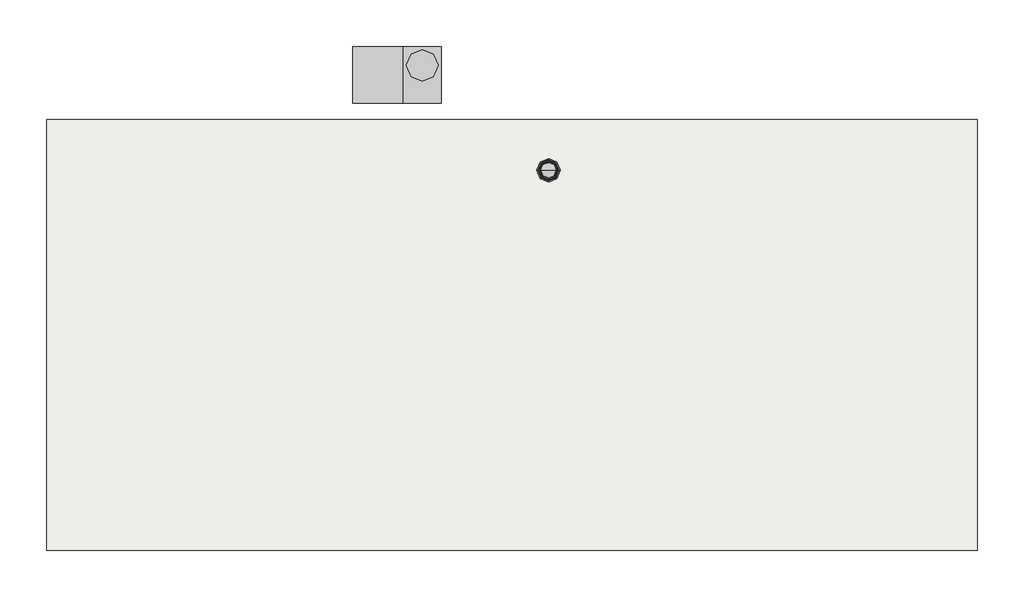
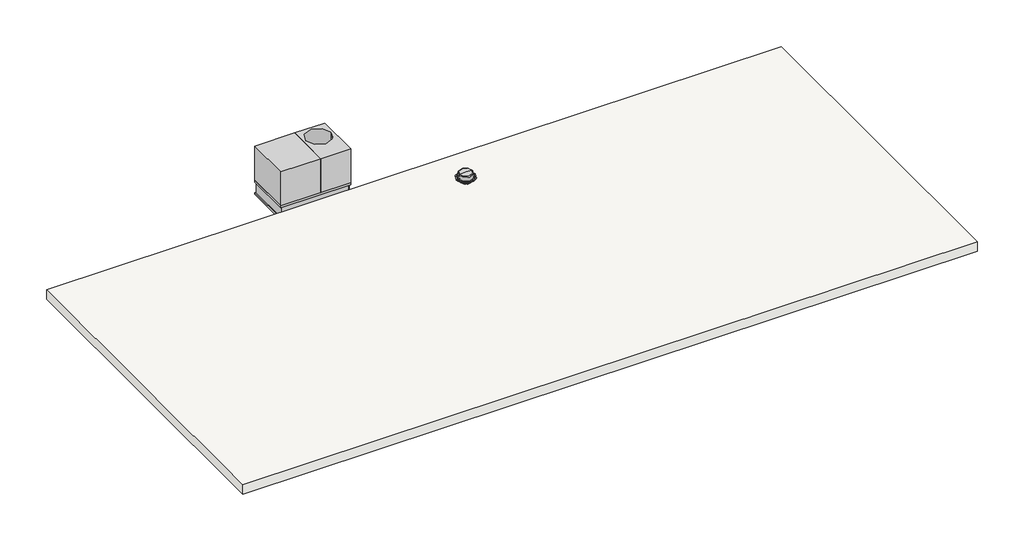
# One storey, incomplete: 2 proxies, 1 roof.
"""IFC4 building model written with IfcOpenShell, lengths in millimetres."""

from ifc_helpers import new_model, si_unit, frame, origin, place, context, project, spatial, polyline, outline, extrude, transform, mapped, element, save
from components import roof_drain_roof_drain_b52993f2, roof_drain_roof_drain_c83bc157, roof_top_unit_default_1_87c86c3b

model = new_model("IFC4")

# Units and contexts
model_context = context("Model", 3, world=origin())
ifc_project = project(units=[si_unit("LENGTHUNIT", "METRE", prefix="MILLI")], contexts=[model_context])

# Site, building, storey
site = spatial("IfcSite", under=ifc_project)
building = spatial("IfcBuilding", under=site)
storey = spatial("IfcBuildingStorey", under=building, Name="Roofdeck", Elevation=3784.6)

# Proxies
placement = place(None, origin())
roof_drain_roof_drain_shape = roof_drain_roof_drain_b52993f2(model_context)
roof_drain_roof_drain_2_shape = roof_drain_roof_drain_c83bc157(model_context)
element("IfcBuildingElementProxy", 1, Name="Roof Drain : Roof Drain", ObjectType="Roof Drain : Roof Drain", at=placement, inside=storey, context=model_context, shape_type="MappedRepresentation", body=[
    mapped(roof_drain_roof_drain_shape, transform((8826.5, -1760.728, 4089.4), x_axis=(1.0, 0.0, 0.0), y_axis=(0.0, 1.0, 0.0), z_axis=(0.0, 0.0, 1.0))),
    mapped(roof_drain_roof_drain_2_shape, transform((8826.5, -1760.728, 4089.4), x_axis=(1.0, 0.0, 0.0), y_axis=(0.0, 1.0, 0.0), z_axis=(0.0, 0.0, 1.0))),
])
roof_top_unit_default_1_shape = roof_top_unit_default_1_87c86c3b(model_context)
element("IfcBuildingElementProxy", 2, Name="Roof Top Unit : Default 1", ObjectType="Roof Top Unit : Default 1", at=placement, inside=storey, context=model_context, shape_type="MappedRepresentation", body=[
    mapped(roof_top_unit_default_1_shape, transform((5894.4950193, -224.0643, 3606.8), x_axis=(1.0, 0.0, 0.0), y_axis=(0.0, 1.0, 0.0), z_axis=(0.0, 0.0, 1.0))),
])

# Roof
element("IfcRoof", 3, ObjectType="Planitar Flat Roof - 8\"", at=placement, inside=storey, context=model_context, shape_type="SweptSolid", body=[
    extrude(outline(polyline([(749.0952, -941.578), (15728.95, -941.578), (15728.95, -7880.35), (749.0952, -7880.35), (749.0952, -941.578)])), frame((0.0, 0.0, 3784.6), z_axis=(0.0, 0.0, 1.0), x_axis=(1.0, 0.0, 0.0)), (0.0, 0.0, 1.0), 203.2),
])

save(model, "model.ifc")
